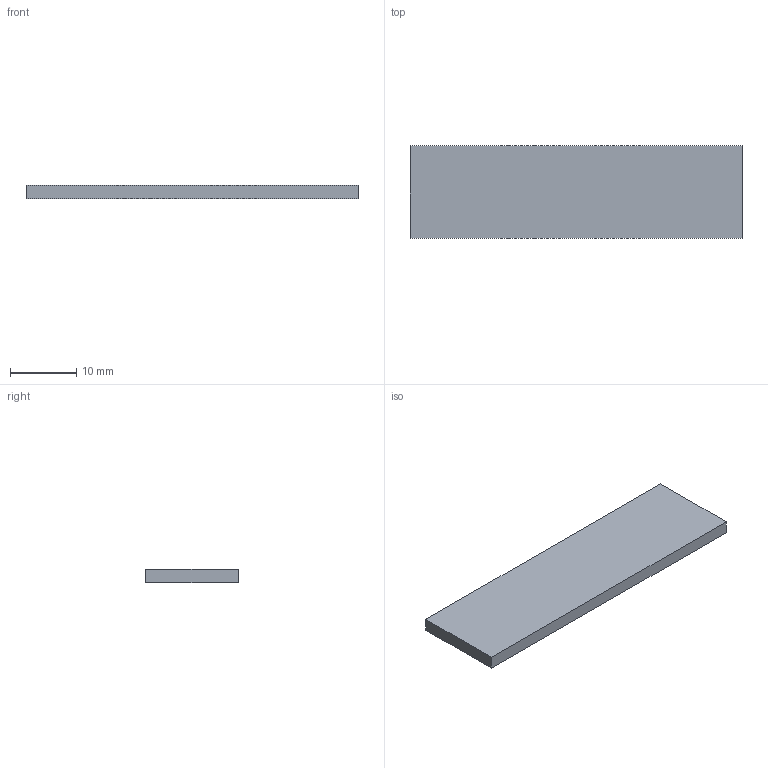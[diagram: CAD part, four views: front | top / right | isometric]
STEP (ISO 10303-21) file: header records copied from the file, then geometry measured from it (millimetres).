
FILE_DESCRIPTION(('Open CASCADE Model'),'2;1');
FILE_NAME('Open CASCADE Shape Model','2026-10-20T13:19:34',('Author'),( 'Open CASCADE'),'Open CASCADE STEP processor 7.9','Open CASCADE 7.9' ,'Unknown');
FILE_SCHEMA(('AUTOMOTIVE_DESIGN { 1 0 10303 214 1 1 1 1 }'));
Length unit declared in the file: millimetre
Products named in the file (1): Open CASCADE STEP translator 7.9 21
Bounding box: 50 x 14 x 2 mm (x, y, z)
Volume: 1400 mm3; surface area: 1656 mm2
Topology: 1 solids, 1 shells, 6 faces, 12 edges, 8 vertices
Faces by surface type: plane 6
Entity records: 322 total; most frequent: CARTESIAN_POINT 51, DIRECTION 50, LINE 36, VECTOR 36, ORIENTED_EDGE 24, PCURVE 24, DEFINITIONAL_REPRESENTATION 24, EDGE_CURVE 12
